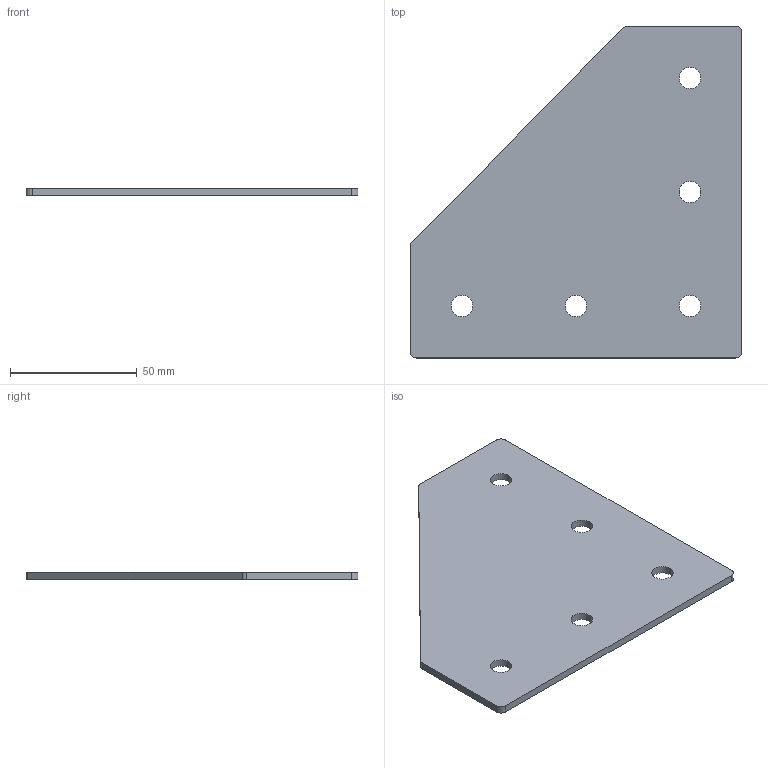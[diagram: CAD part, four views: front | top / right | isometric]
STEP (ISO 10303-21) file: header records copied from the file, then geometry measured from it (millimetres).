
FILE_DESCRIPTION (( 'STEP AP203' ), '1' );
FILE_NAME ('ﾃ-5-ﾓ-45.STEP', '2016-07-20T09:34:16', ( '' ), ( '' ), 'SwSTEP 2.0', 'SolidWorks 2014', '' );
FILE_SCHEMA (( 'CONFIG_CONTROL_DESIGN' ));
Length unit declared in the file: millimetre
Products named in the file (1): ﾃ-5-ﾓ-45
Bounding box: 131 x 131 x 3 mm (x, y, z)
Volume: 39654 mm3; surface area: 28248 mm2
Topology: 1 solids, 1 shells, 22 faces, 60 edges, 40 vertices
Faces by surface type: cylinder 15, plane 7
Entity records: 811 total; most frequent: DIRECTION 136, CARTESIAN_POINT 123, ORIENTED_EDGE 120, EDGE_CURVE 60, AXIS2_PLACEMENT_3D 53, VERTEX_POINT 40, EDGE_LOOP 32, CIRCLE 30
